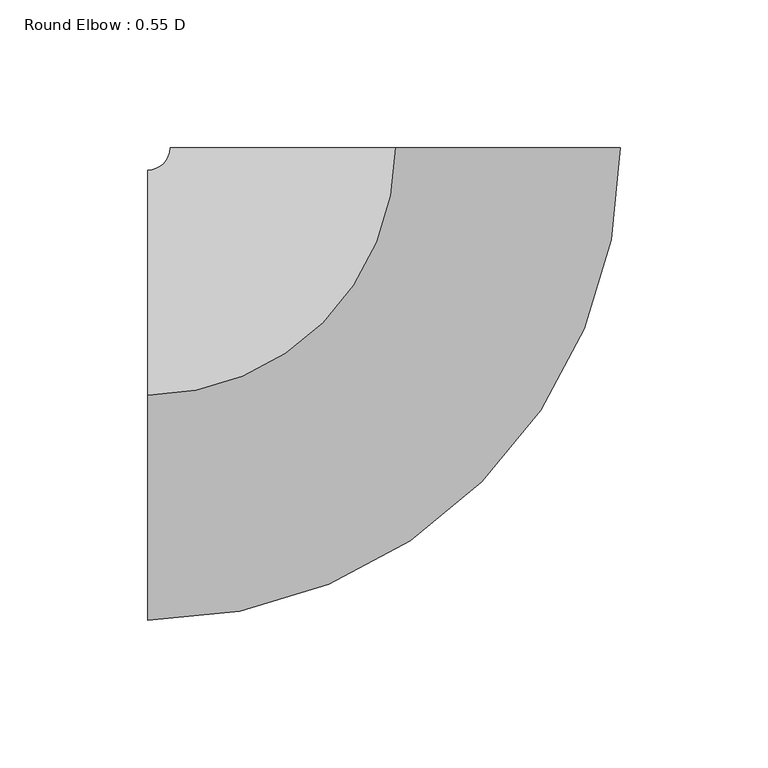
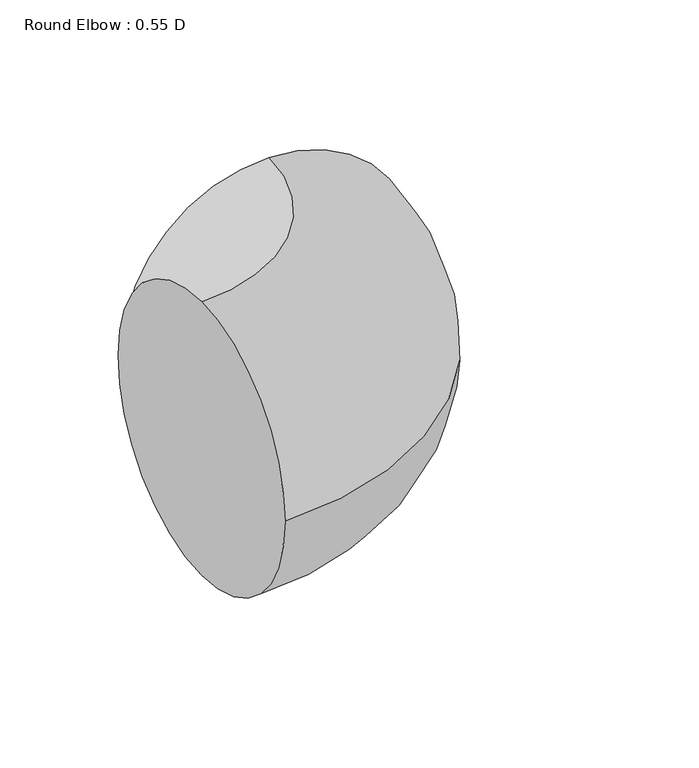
"""IFC4 building model written with IfcOpenShell, lengths in millimetres: duct fitting geometry, Round Elbow : 0.55 D."""

from ifc_helpers import new_model, si_unit, point, frame, origin, place, context, project, spatial, circle_curve, ellipse_curve, trimmed, source, transform, mapped, element, save
from ifc_brep_helpers import plane_surface, revolved_surface, advanced_brep


def round_elbow_0_55_d_1858b3fd(model_context):
    return source(origin(), model_context, "Body", "AdvancedBrep", [
        advanced_brep(
        [(-83.82, 0.0, 76.2), (-83.82, 76.2, 0.0), (-83.82, 0.0, -76.2), (-83.82, -76.2, 0.0), (0.0, 83.82, 76.2), (76.2, 83.82, 0.0), (0.0, 83.82, -76.2), (-76.2, 83.82, 0.0)],
        [
            (0, 1, circle_curve(frame((-83.82, 0.0, 0.0), z_axis=(-1.0, 0.0, 0.0), x_axis=(0.0, 1.0, 0.0)), 76.2)),
            (1, 2, circle_curve(frame((-83.82, 0.0, 0.0), z_axis=(-1.0, 0.0, 0.0), x_axis=(0.0, 1.0, 0.0)), 76.2)),
            (2, 3, circle_curve(frame((-83.82, 0.0, 0.0), z_axis=(-1.0, 0.0, 0.0), x_axis=(0.0, 1.0, 0.0)), 76.2)),
            (3, 0, circle_curve(frame((-83.82, 0.0, 0.0), z_axis=(-1.0, 0.0, 0.0), x_axis=(0.0, 1.0, 0.0)), 76.2)),
            (4, 5, circle_curve(frame((0.0, 83.82, 0.0), z_axis=(0.0, 1.0, 0.0), x_axis=(-1.0, 0.0, 0.0)), 76.2)),
            (5, 6, circle_curve(frame((0.0, 83.82, 0.0), z_axis=(0.0, 1.0, 0.0), x_axis=(-1.0, 0.0, 0.0)), 76.2)),
            (6, 7, circle_curve(frame((0.0, 83.82, 0.0), z_axis=(0.0, 1.0, 0.0), x_axis=(-1.0, 0.0, 0.0)), 76.2)),
            (7, 4, circle_curve(frame((0.0, 83.82, 0.0), z_axis=(0.0, 1.0, 0.0), x_axis=(-1.0, 0.0, 0.0)), 76.2)),
            (7, 1, circle_curve(frame((-83.82, 83.82, 0.0), z_axis=(0.0, 0.0, -1.0), x_axis=(0.0, -1.0, 0.0)), 7.62)),
            (0, 4, circle_curve(frame((-83.82, 83.82, 76.2), z_axis=(0.0, 0.0, 1.0), x_axis=(0.0, -1.0, 0.0)), 83.82)),
            (6, 2, circle_curve(frame((-83.82, 83.82, -76.2), z_axis=(0.0, 0.0, -1.0), x_axis=(0.0, -1.0, 0.0)), 83.82)),
            (5, 3, circle_curve(frame((-83.82, 83.82, 0.0), z_axis=(0.0, 0.0, -1.0), x_axis=(0.0, -1.0, 0.0)), 160.02)),
        ],
        [
            plane_surface(frame((-83.82, 0.0, 0.0), z_axis=(-1.0, 0.0, 0.0), x_axis=(0.0, 0.0, 1.0))),
            plane_surface(frame((0.0, 83.82, 0.0), z_axis=(0.0, 1.0, 0.0), x_axis=(0.0, 0.0, 1.0))),
            revolved_surface(trimmed(ellipse_curve(frame((-83.82, 0.0, 0.0), z_axis=(-1.0, 0.0, 0.0), x_axis=(0.0, 1.0, 0.0)), 76.2, 76.2), [point((-83.82, 0.0, 76.2))], [point((-83.82, 76.2, 0.0))], True, "CARTESIAN"), (-83.82, 83.82, 0.0), (0.0, 0.0, 1.0)),
            revolved_surface(trimmed(ellipse_curve(frame((-83.82, 0.0, 0.0), z_axis=(-1.0, 0.0, 0.0), x_axis=(0.0, 1.0, 0.0)), 76.2, 76.2), [point((-83.82, 76.2, 0.0))], [point((-83.82, 0.0, -76.2))], True, "CARTESIAN"), (-83.82, 83.82, 0.0), (0.0, 0.0, 1.0)),
            revolved_surface(trimmed(ellipse_curve(frame((-83.82, 0.0, 0.0), z_axis=(-1.0, 0.0, 0.0), x_axis=(0.0, 1.0, 0.0)), 76.2, 76.2), [point((-83.82, 0.0, -76.2))], [point((-83.82, -76.2, 0.0))], True, "CARTESIAN"), (-83.82, 83.82, 0.0), (0.0, 0.0, 1.0)),
            revolved_surface(trimmed(ellipse_curve(frame((-83.82, 0.0, 0.0), z_axis=(-1.0, 0.0, 0.0), x_axis=(0.0, 1.0, 0.0)), 76.2, 76.2), [point((-83.82, -76.2, 0.0))], [point((-83.82, 0.0, 76.2))], True, "CARTESIAN"), (-83.82, 83.82, 0.0), (0.0, 0.0, 1.0)),
        ],
        [
            (0, [[1, 2, 3, 4]]),
            (1, [[5, 6, 7, 8]]),
            (2, [[9, -1, 10, -8]]),
            (3, [[11, -2, -9, -7]]),
            (4, [[12, -3, -11, -6]]),
            (5, [[-10, -4, -12, -5]]),
        ],
    ),
    ])


if __name__ == "__main__":
    model = new_model("IFC4")
    model_context = context("Model", 3, world=origin())
    ifc_project = project(units=[si_unit("LENGTHUNIT", "METRE", prefix="MILLI")], contexts=[model_context])
    site = spatial("IfcSite", under=ifc_project)
    building = spatial("IfcBuilding", under=site)
    placement = place(None, origin())
    round_elbow_0_55_d_shape = round_elbow_0_55_d_1858b3fd(model_context)
    element("IfcDuctFitting", 1, ObjectType="Round Elbow : 0.55 D", at=placement, inside=building, context=model_context, shape_type="MappedRepresentation", body=[
        mapped(round_elbow_0_55_d_shape, transform((0.0, 0.0, 0.0), x_axis=(1.0, 0.0, 0.0), y_axis=(0.0, 1.0, 0.0), z_axis=(0.0, 0.0, 1.0))),
    ])
    save(model, "model.ifc")
